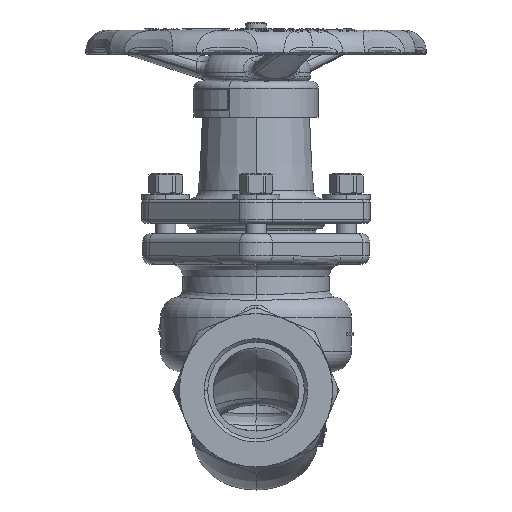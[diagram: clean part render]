
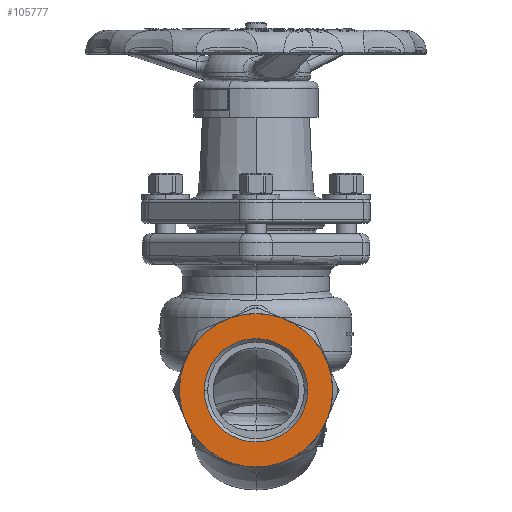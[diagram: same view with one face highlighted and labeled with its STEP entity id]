
A CAD part, left-side view. The second image highlights one B-rep face of the part: STEP entity #105777.
In plain terms, the highlighted planar face has unit normal (-1, 0, 0).
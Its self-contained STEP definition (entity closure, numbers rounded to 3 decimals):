
#20704=CARTESIAN_POINT('',(-110.,0.,0.));
#20705=DIRECTION('',(1.,0.,0.));
#20706=DIRECTION('',(0.,-1.,0.));
#20707=AXIS2_PLACEMENT_3D('',#20704,#20705,#20706);
#20709=CARTESIAN_POINT('',(-110.,0.,0.));
#20710=DIRECTION('',(1.,0.,0.));
#20711=DIRECTION('',(0.,1.,0.));
#20712=AXIS2_PLACEMENT_3D('',#20709,#20710,#20711);
#20714=CARTESIAN_POINT('',(-110.,0.,0.));
#20715=DIRECTION('',(-1.,0.,0.));
#20716=DIRECTION('',(0.,0.,1.));
#20717=AXIS2_PLACEMENT_3D('',#20714,#20715,#20716);
#20744=CARTESIAN_POINT('',(-110.,0.,0.));
#20745=DIRECTION('',(-1.,0.,0.));
#20746=DIRECTION('',(0.,0.,-1.));
#20747=AXIS2_PLACEMENT_3D('',#20744,#20745,#20746);
#41431=CARTESIAN_POINT('',(-110.,0.,45.));
#41432=CARTESIAN_POINT('',(-110.,0.,-45.));
#41433=VERTEX_POINT('',#41431);
#41434=VERTEX_POINT('',#41432);
#41465=CARTESIAN_POINT('',(-110.,-30.328,0.));
#41466=CARTESIAN_POINT('',(-110.,30.328,0.));
#41467=VERTEX_POINT('',#41465);
#41468=VERTEX_POINT('',#41466);
#105761=CARTESIAN_POINT('',(-110.,0.,0.));
#105762=DIRECTION('',(-1.,0.,0.));
#105763=DIRECTION('',(0.,0.,1.));
#105764=AXIS2_PLACEMENT_3D('',#105761,#105762,#105763);
#105765=PLANE('',#105764);
#105767=ORIENTED_EDGE('',*,*,#105766,.F.);
#105769=ORIENTED_EDGE('',*,*,#105768,.F.);
#105770=EDGE_LOOP('',(#105767,#105769));
#105771=FACE_OUTER_BOUND('',#105770,.F.);
#105772=ORIENTED_EDGE('',*,*,#105751,.F.);
#105774=ORIENTED_EDGE('',*,*,#105773,.F.);
#105775=EDGE_LOOP('',(#105772,#105774));
#105776=FACE_BOUND('',#105775,.F.);
#105777=ADVANCED_FACE('',(#105771,#105776),#105765,.T.);
#20708=CIRCLE('',#20707,30.328);
#20713=CIRCLE('',#20712,30.328);
#20718=CIRCLE('',#20717,45.);
#20748=CIRCLE('',#20747,45.);
#105751=EDGE_CURVE('',#41467,#41468,#20708,.T.);
#105766=EDGE_CURVE('',#41433,#41434,#20718,.T.);
#105768=EDGE_CURVE('',#41434,#41433,#20748,.T.);
#105773=EDGE_CURVE('',#41468,#41467,#20713,.T.);
